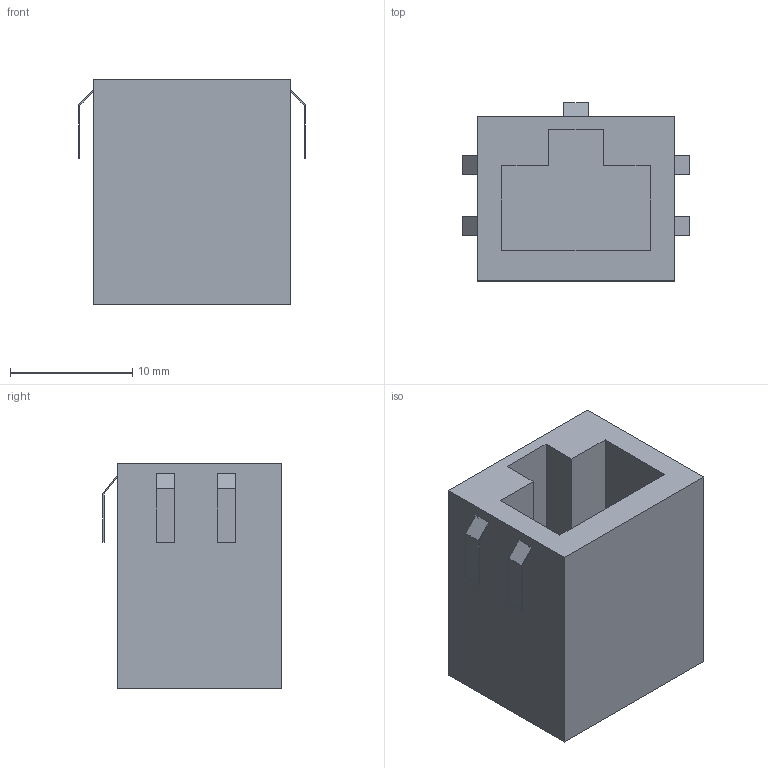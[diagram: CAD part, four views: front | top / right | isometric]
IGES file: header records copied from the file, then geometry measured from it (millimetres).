
Start section:  PTC IGES file: j4gf-cn1b.igs
Global section: file name: j4gf-cn1b.igs; native system: Creo Parametric by Parametric Technology Corporation; preprocessor: 2014310; author: ZZ86203; organization: Unknown; date: 20151022.125234; units: millimetre
Bounding box: 18.56 x 14.61 x 18.5 mm (x, y, z)
Volume: 3043.9 mm3; surface area: 2072.8 mm2
Topology: 1 solids, 1 shells, 50 faces, 126 edges, 84 vertices
Faces by surface type: bspline 50
